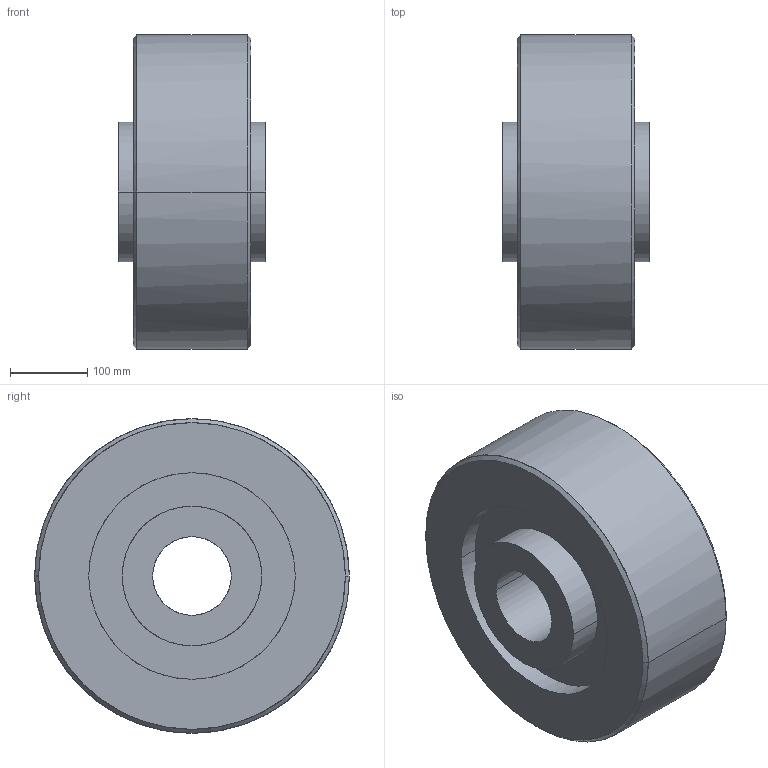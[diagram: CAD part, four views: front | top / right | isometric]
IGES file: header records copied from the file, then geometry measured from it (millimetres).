
Global section: native system: Kubotek KeyCreator; preprocessor: KCM Version 1.1.1442.0; author: KeyCreator User; organization: Self; date: 20170712.060134; units: inch
Bounding box: 190.5 x 406.4 x 406.4 mm (x, y, z)
Surface area: 584110.4 mm2 (no closed solid volume)
Topology: 0 solids, 0 shells, 22 faces, 144 edges, 144 vertices
Faces by surface type: bspline 22
